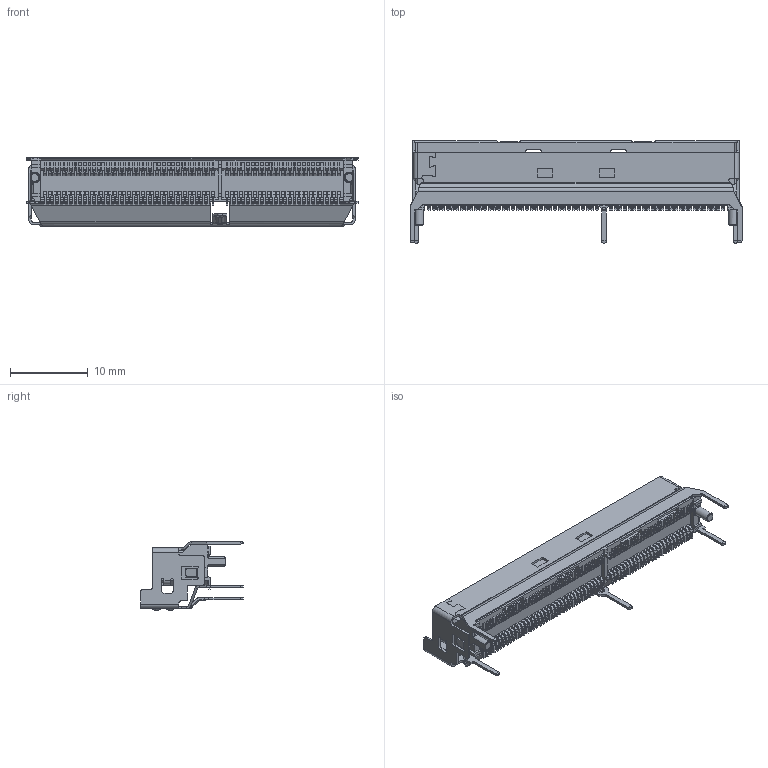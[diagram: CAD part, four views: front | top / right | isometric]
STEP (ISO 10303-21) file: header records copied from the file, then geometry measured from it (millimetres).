
FILE_DESCRIPTION((''),'2;1');
FILE_NAME('02V331X10H0000','2024-05-17T00:28:21',('ZL'),(''),'CREO PARAMETRIC BY PTC INC, 2020053','CREO PARAMETRIC BY PTC INC, 2020053','');
FILE_SCHEMA(('AUTOMOTIVE_DESIGN { 1 0 10303 214 1 1 1 1 }'));
Products named in the file (1): 02V331X10H0000
Bounding box: 42.75 x 13.15 x 8.82 mm (x, y, z)
Volume: 1048.8 mm3; surface area: 4466.3 mm2
Topology: 1 solids, 2 shells, 7589 faces, 22765 edges, 15040 vertices
Faces by surface type: plane 5410, cylinder 1647, extrusion 490, bspline 22, torus 14, cone 6
Entity records: 274267 total; most frequent: CARTESIAN_POINT 53123, ORIENTED_EDGE 45530, DIRECTION 39662, EDGE_CURVE 22765, VECTOR 18831, LINE 18341, VERTEX_POINT 15040, AXIS2_PLACEMENT_3D 10414
